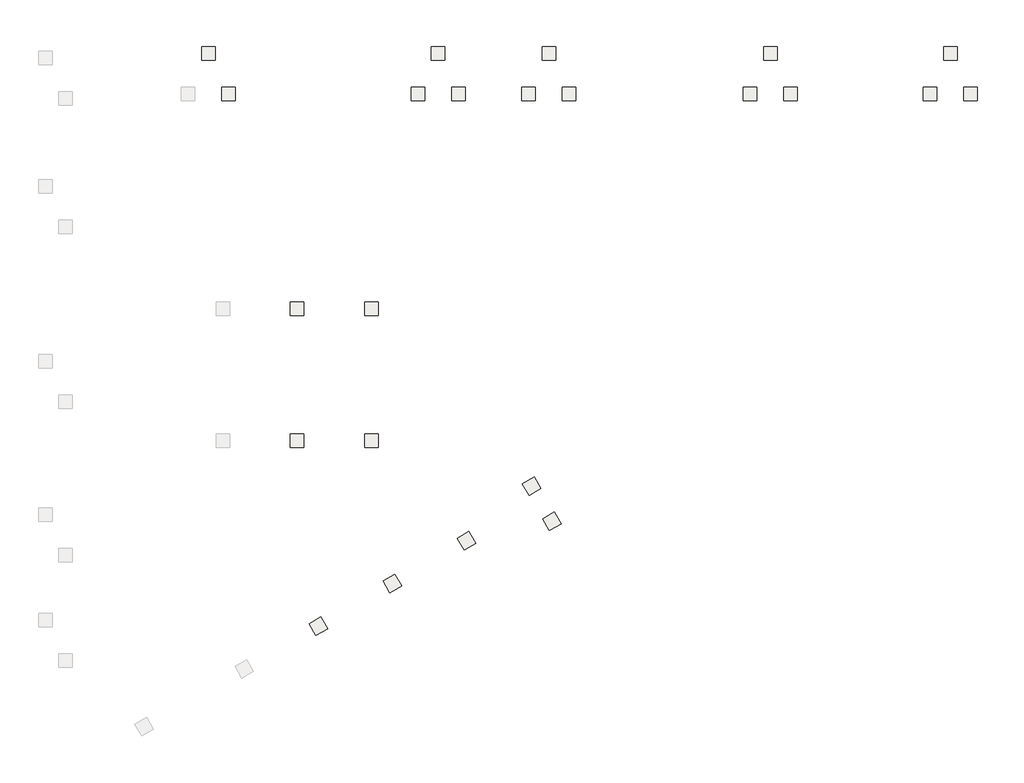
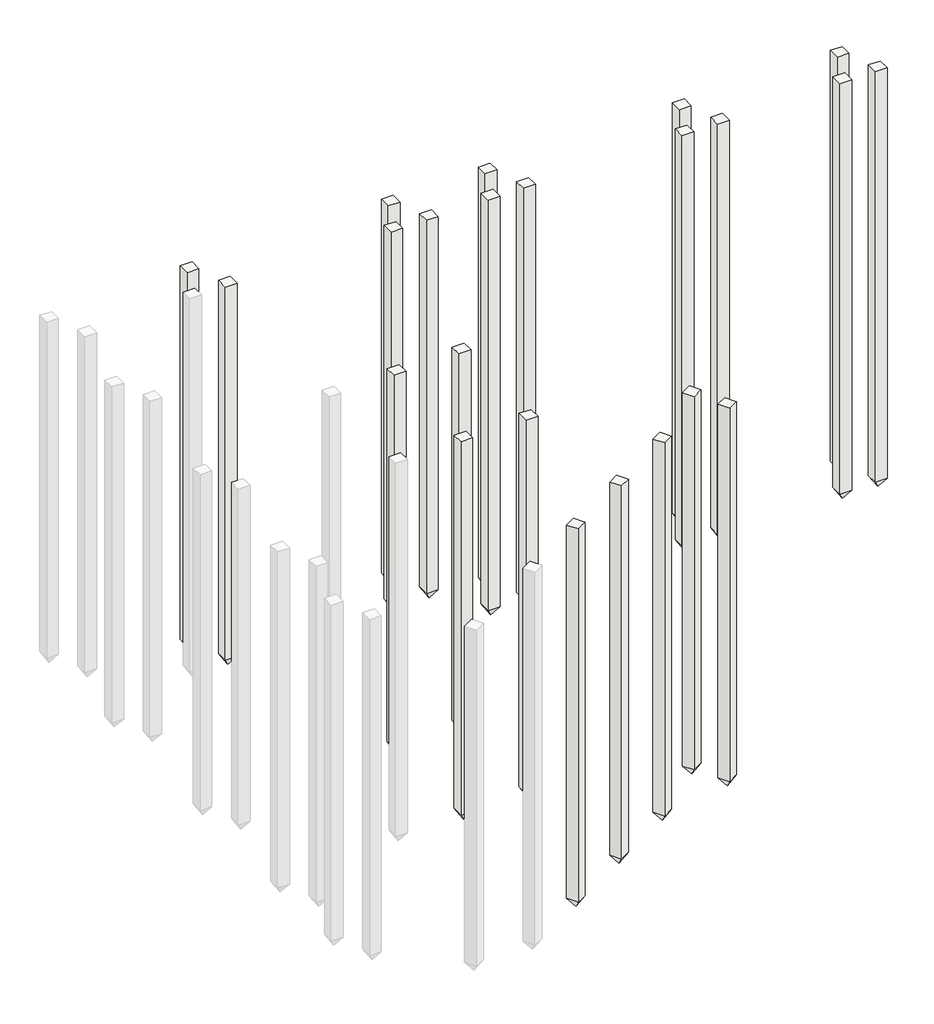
# One storey, part 2 of 2: 23 slabs.
"""IFC4 building model written with IfcOpenShell, lengths in millimetres."""

import ifcopenshell
import ifcopenshell.guid

model = None  # the IFC model being written
_history = None  # IfcOwnerHistory: only IFC2X3 demands one
_inside = {}  # id of a spatial element -> (the spatial element, [elements in it])
_under = {}  # id of a project, library or spatial element -> (it, [spatial elements below it])
_declared = {}  # id of a project -> (the project, [libraries it declares])
_typed = {}  # id of a type object -> (the type object, [elements of that type])
_made_of = {}  # id of a material, layer set ... -> (it, [elements and type objects made of it])


def new_model(schema):
    """Start an empty IFC model of exactly this schema.

    Asked for "IFC4X3", IfcOpenShell would pick the latest addendum, in which some entities
    have other attributes; the version numbers below select the first issue.
    IFC2X3 requires an IfcOwnerHistory on every rooted entity: one is made here for all.
    """
    global model, _history
    if schema == "IFC4X3":
        model = ifcopenshell.file(schema_version=(4, 3, 0, 0))
    else:
        model = ifcopenshell.file(schema=schema)
    _inside.clear()
    _under.clear()
    _declared.clear()
    _typed.clear()
    _made_of.clear()
    _history = None
    if model.schema == "IFC2X3":
        org = make("IfcOrganization", Name="unknown")
        user = make(
            "IfcPersonAndOrganization",
            ThePerson=make("IfcPerson", FamilyName="unknown"),
            TheOrganization=org,
        )
        app = make(
            "IfcApplication",
            ApplicationDeveloper=org,
            Version="unknown",
            ApplicationFullName="unknown",
            ApplicationIdentifier="unknown",
        )
        _history = make(
            "IfcOwnerHistory",
            OwningUser=user,
            OwningApplication=app,
            ChangeAction="ADDED",
            CreationDate=0,
        )
    return model


def make(cls, **values):
    """One entity of the class cls with the attributes given. An attribute that is None is left unset."""
    return model.create_entity(
        cls, **{name: value for name, value in values.items() if value is not None}
    )


def rooted(cls, **values):
    """An entity with a GlobalId (a new one), such as an element, a storey or a relation."""
    return make(cls, GlobalId=ifcopenshell.guid.new(), OwnerHistory=_history, **values)


def si_unit(unit_type, name, prefix=None):
    """IfcSIUnit, for example si_unit("LENGTHUNIT", "METRE", prefix="MILLI")."""
    return make("IfcSIUnit", UnitType=unit_type, Prefix=prefix, Name=name)


def assignment(units):
    """IfcUnitAssignment: the units of a project."""
    return None if units is None else make("IfcUnitAssignment", Units=units)


def point(xyz):
    """IfcCartesianPoint."""
    return None if xyz is None else make("IfcCartesianPoint", Coordinates=xyz)


def direction(xyz):
    """IfcDirection."""
    return None if xyz is None else make("IfcDirection", DirectionRatios=xyz)


def frame(location, z_axis=None, x_axis=None):
    """IfcAxis2Placement3D, a coordinate frame: its origin and axes. An axis left out is left unset."""
    return make(
        "IfcAxis2Placement3D",
        Location=point(location),
        Axis=direction(z_axis),
        RefDirection=direction(x_axis),
    )


def origin():
    """The frame at (0, 0, 0) with its axes left unset."""
    return frame((0.0, 0.0, 0.0))


def place(relative_to, where):
    """IfcLocalPlacement: puts the frame where relative to a parent placement (None: the world)."""
    return make(
        "IfcLocalPlacement", PlacementRelTo=relative_to, RelativePlacement=where
    )


def context(
    kind, dimensions, precision=None, world=None, true_north=None, identifier=None
):
    """IfcGeometricRepresentationContext, for example the 3D "Model" context."""
    return make(
        "IfcGeometricRepresentationContext",
        ContextIdentifier=identifier,
        ContextType=kind,
        CoordinateSpaceDimension=dimensions,
        Precision=precision,
        WorldCoordinateSystem=world,
        TrueNorth=true_north,
    )


def project(units=None, contexts=None):
    """IfcProject with its units and contexts."""
    return rooted(
        "IfcProject",
        Name="project",
        RepresentationContexts=contexts,
        UnitsInContext=assignment(units),
    )


def spatial(cls, under=None, at=None, **own):
    """A site, building, storey or space (cls), placed at a placement, below another one or the project."""
    s = rooted(cls, ObjectPlacement=at, **own)
    if under is not None:
        _under.setdefault(under.id(), (under, []))[1].append(s)
    return s


def faces_of(points, faces, orient=None, outer=None):
    """IfcFace entities. A face is a list of loops; a loop is a list of indices into points, from 0.

    orient and outer hold one flag for each loop. By default every Orientation is true, the
    first loop of a face is its IfcFaceOuterBound and the others are IfcFaceBound.
    """
    made = []
    for i, loops in enumerate(faces):
        bounds = []
        for j, loop in enumerate(loops):
            is_outer = j == 0 if outer is None else outer[i][j]
            bounds.append(
                make(
                    "IfcFaceOuterBound" if is_outer else "IfcFaceBound",
                    Bound=make("IfcPolyLoop", Polygon=[points[k] for k in loop]),
                    Orientation=True if orient is None else orient[i][j],
                )
            )
        made.append(make("IfcFace", Bounds=bounds))
    return made


def faceted_brep(points, faces, orient=None, outer=None, voids=None):
    """IfcFacetedBrep: a solid bounded by flat faces; with voids (closed shells), ...WithVoids."""
    shared = [point(p) for p in points]
    hull = make("IfcClosedShell", CfsFaces=faces_of(shared, faces, orient, outer))
    if voids is None:
        return make("IfcFacetedBrep", Outer=hull)
    return make(
        "IfcFacetedBrepWithVoids",
        Outer=hull,
        Voids=[
            make(cls, CfsFaces=faces_of(shared, fs, o, b)) for cls, fs, o, b in voids
        ],
    )


def shape(context_of_items, identifier, shape_type, items):
    """IfcShapeRepresentation: the items that make up one representation, for example the "Body"."""
    return make(
        "IfcShapeRepresentation",
        ContextOfItems=context_of_items,
        RepresentationIdentifier=identifier,
        RepresentationType=shape_type,
        Items=items,
    )


def made_of(thing, what):
    """Note that an element or type object is made of a material, layer set ...; save() writes the relation."""
    if what is not None:
        _made_of.setdefault(what.id(), (what, []))[1].append(thing)
    return thing


def element(
    cls,
    number,
    at=None,
    inside=None,
    cuts=None,
    type_object=None,
    material=None,
    context=None,
    identifier="Body",
    shape_type=None,
    held_by="IfcProductDefinitionShape",
    body=None,
    shapes=None,
    **own,
):
    """One element of the class cls, such as IfcWall. Its Tag is "e" and its number.

    at: its placement. inside: the storey or other place that contains it. cuts: it is an
    opening in that element (IfcRelVoidsElement). A single representation is given by context,
    identifier, shape_type and body (its items); several are given by shapes. held_by: the class
    of the entity that holds the representations. save() writes the other relations.
    """
    e = rooted(cls, Tag="e%d" % number, ObjectPlacement=at, **own)
    if body is not None:
        shapes = [shape(context, identifier, shape_type, body)]
    if shapes is not None:
        e.Representation = make(held_by, Representations=shapes)
    if inside is not None:
        _inside.setdefault(inside.id(), (inside, []))[1].append(e)
    if cuts is not None:
        rooted(
            "IfcRelVoidsElement", RelatingBuildingElement=cuts, RelatedOpeningElement=e
        )
    if type_object is not None:
        _typed.setdefault(type_object.id(), (type_object, []))[1].append(e)
    return made_of(e, material)


def aggregate(whole, parts):
    """IfcRelAggregates: a whole, such as a stair, and the parts it consists of."""
    return rooted("IfcRelAggregates", RelatingObject=whole, RelatedObjects=parts)


def save(model, path):
    """Write the relations noted so far, then the file.

    IfcRelAggregates (storeys below a building ...), IfcRelContainedInSpatialStructure (elements
    in a storey), IfcRelDefinesByType, IfcRelAssociatesMaterial and IfcRelDeclares: one each for
    every whole, place, type object, material and project.
    """
    for whole, parts in _under.values():
        aggregate(whole, parts)
    for where, things in _inside.values():
        rooted(
            "IfcRelContainedInSpatialStructure",
            RelatedElements=things,
            RelatingStructure=where,
        )
    for kind, things in _typed.values():
        rooted("IfcRelDefinesByType", RelatedObjects=things, RelatingType=kind)
    for what, things in _made_of.values():
        rooted("IfcRelAssociatesMaterial", RelatedObjects=things, RelatingMaterial=what)
    for by, libraries in _declared.values():
        rooted("IfcRelDeclares", RelatingContext=by, RelatedDefinitions=libraries)
    model.write(path)


model = new_model("IFC4")

# Units and contexts
model_context = context("Model", 3, world=origin())
ifc_project = project(units=[si_unit("LENGTHUNIT", "METRE", prefix="MILLI")], contexts=[model_context])

# Site, building, storey
site = spatial("IfcSite", under=ifc_project)
building = spatial("IfcBuilding", under=site)
storey = spatial("IfcBuildingStorey", under=building, Name="+0.650 (Верх свай 4)", Elevation=650.0)

# Slabs
placement = place(None, origin())
element("IfcSlab", 1, ObjectType="Бетонная свая прямоугольного сечения : C100.30-9", at=placement, inside=storey, context=model_context, shape_type="Brep", body=[
    faceted_brep([(1628.1110456, 27176.226036, 650.0), (1368.3034244, 27026.226036, 650.0), (1518.3034244, 26766.4184149, 650.0), (1778.1110456, 26916.4184149, 650.0), (1628.1110456, 27176.226036, 600.0), (1628.1110456, 27176.226036, 500.0), (1628.1110456, 27176.226036, -9350.0), (1368.3034244, 27026.226036, -9350.0), (1368.3034244, 27026.226036, 500.0), (1368.3034244, 27026.226036, 600.0), (1518.3034244, 26766.4184149, -9350.0), (1518.3034244, 26766.4184149, 500.0), (1518.3034244, 26766.4184149, 600.0), (1778.1110456, 26916.4184149, -9350.0), (1778.1110456, 26916.4184149, 500.0), (1778.1110456, 26916.4184149, 600.0), (1573.3830612, 26971.862808, -9600.0), (1573.7830612, 26971.1699877, -9600.0), (1573.0902409, 26970.7699877, -9600.0), (1572.6902409, 26971.462808, -9600.0)], [[[0, 1, 2, 3]], [[1, 0, 4, 5, 6, 7, 8, 9]], [[2, 1, 9, 8, 7, 10, 11, 12]], [[3, 2, 12, 11, 10, 13, 14, 15]], [[0, 3, 15, 14, 13, 6, 5, 4]], [[16, 17, 18, 19]], [[17, 16, 6, 13]], [[18, 17, 13, 10]], [[19, 18, 10, 7]], [[16, 19, 7, 6]]]),
])
element("IfcSlab", 2, ObjectType="Бетонная свая прямоугольного сечения : C100.30-9", at=placement, inside=storey, context=model_context, shape_type="Brep", body=[
    faceted_brep([(3273.4787389, 28126.3655804, 650.0), (3013.6711177, 27976.3655804, 650.0), (3163.6711177, 27716.5579593, 650.0), (3423.4787389, 27866.5579593, 650.0), (3273.4787389, 28126.3655804, 600.0), (3273.4787389, 28126.3655804, 500.0), (3273.4787389, 28126.3655804, -9350.0), (3013.6711177, 27976.3655804, -9350.0), (3013.6711177, 27976.3655804, 500.0), (3013.6711177, 27976.3655804, 600.0), (3163.6711177, 27716.5579593, -9350.0), (3163.6711177, 27716.5579593, 500.0), (3163.6711177, 27716.5579593, 600.0), (3423.4787389, 27866.5579593, -9350.0), (3423.4787389, 27866.5579593, 500.0), (3423.4787389, 27866.5579593, 600.0), (3218.7507545, 27922.0023524, -9600.0), (3219.1507545, 27921.3095321, -9600.0), (3218.4579342, 27920.9095321, -9600.0), (3218.0579342, 27921.6023524, -9600.0)], [[[0, 1, 2, 3]], [[1, 0, 4, 5, 6, 7, 8, 9]], [[2, 1, 9, 8, 7, 10, 11, 12]], [[3, 2, 12, 11, 10, 13, 14, 15]], [[0, 3, 15, 14, 13, 6, 5, 4]], [[16, 17, 18, 19]], [[17, 16, 6, 13]], [[18, 17, 13, 10]], [[19, 18, 10, 7]], [[16, 19, 7, 6]]]),
])
element("IfcSlab", 3, ObjectType="Бетонная свая прямоугольного сечения : C100.30-9", at=placement, inside=storey, context=model_context, shape_type="Brep", body=[
    faceted_brep([(4918.8464322, 29076.5051248, 650.0), (4659.038811, 28926.5051248, 650.0), (4809.038811, 28666.6975037, 650.0), (5068.8464322, 28816.6975037, 650.0), (4918.8464322, 29076.5051248, 600.0), (4918.8464322, 29076.5051248, 500.0), (4918.8464322, 29076.5051248, -9350.0), (4659.038811, 28926.5051248, -9350.0), (4659.038811, 28926.5051248, 500.0), (4659.038811, 28926.5051248, 600.0), (4809.038811, 28666.6975037, -9350.0), (4809.038811, 28666.6975037, 500.0), (4809.038811, 28666.6975037, 600.0), (5068.8464322, 28816.6975037, -9350.0), (5068.8464322, 28816.6975037, 500.0), (5068.8464322, 28816.6975037, 600.0), (4864.1184478, 28872.1418968, -9600.0), (4864.5184478, 28871.4490765, -9600.0), (4863.8256275, 28871.0490765, -9600.0), (4863.4256275, 28871.7418968, -9600.0)], [[[0, 1, 2, 3]], [[1, 0, 4, 5, 6, 7, 8, 9]], [[2, 1, 9, 8, 7, 10, 11, 12]], [[3, 2, 12, 11, 10, 13, 14, 15]], [[0, 3, 15, 14, 13, 6, 5, 4]], [[16, 17, 18, 19]], [[17, 16, 6, 13]], [[18, 17, 13, 10]], [[19, 18, 10, 7]], [[16, 19, 7, 6]]]),
])
element("IfcSlab", 4, ObjectType="Бетонная свая прямоугольного сечения : C100.30-9", at=placement, inside=storey, context=model_context, shape_type="Brep", body=[
    faceted_brep([(6366.0751272, 30288.0861751, 650.0), (6106.2675061, 30138.0861751, 650.0), (6256.2675061, 29878.278554, 650.0), (6516.0751272, 30028.278554, 650.0), (6366.0751272, 30288.0861751, 600.0), (6366.0751272, 30288.0861751, 500.0), (6366.0751272, 30288.0861751, -9350.0), (6106.2675061, 30138.0861751, -9350.0), (6106.2675061, 30138.0861751, 500.0), (6106.2675061, 30138.0861751, 600.0), (6256.2675061, 29878.278554, -9350.0), (6256.2675061, 29878.278554, 500.0), (6256.2675061, 29878.278554, 600.0), (6516.0751272, 30028.278554, -9350.0), (6516.0751272, 30028.278554, 500.0), (6516.0751272, 30028.278554, 600.0), (6311.3471429, 30083.7229471, -9600.0), (6311.7471429, 30083.0301267, -9600.0), (6311.0543226, 30082.6301267, -9600.0), (6310.6543226, 30083.3229471, -9600.0)], [[[0, 1, 2, 3]], [[1, 0, 4, 5, 6, 7, 8, 9]], [[2, 1, 9, 8, 7, 10, 11, 12]], [[3, 2, 12, 11, 10, 13, 14, 15]], [[0, 3, 15, 14, 13, 6, 5, 4]], [[16, 17, 18, 19]], [[17, 16, 6, 13]], [[18, 17, 13, 10]], [[19, 18, 10, 7]], [[16, 19, 7, 6]]]),
])
element("IfcSlab", 5, ObjectType="Бетонная свая прямоугольного сечения : C100.30-9", at=placement, inside=storey, context=model_context, shape_type="Brep", body=[
    faceted_brep([(6816.1412272, 29508.7014783, 650.0), (6556.3336061, 29358.7014783, 650.0), (6706.3336061, 29098.8938571, 650.0), (6966.1412272, 29248.8938571, 650.0), (6816.1412272, 29508.7014783, 600.0), (6816.1412272, 29508.7014783, 500.0), (6816.1412272, 29508.7014783, -9350.0), (6556.3336061, 29358.7014783, -9350.0), (6556.3336061, 29358.7014783, 500.0), (6556.3336061, 29358.7014783, 600.0), (6706.3336061, 29098.8938571, -9350.0), (6706.3336061, 29098.8938571, 500.0), (6706.3336061, 29098.8938571, 600.0), (6966.1412272, 29248.8938571, -9350.0), (6966.1412272, 29248.8938571, 500.0), (6966.1412272, 29248.8938571, 600.0), (6761.4132429, 29304.3382502, -9600.0), (6761.8132429, 29303.6454299, -9600.0), (6761.1204225, 29303.2454299, -9600.0), (6760.7204225, 29303.9382502, -9600.0)], [[[0, 1, 2, 3]], [[1, 0, 4, 5, 6, 7, 8, 9]], [[2, 1, 9, 8, 7, 10, 11, 12]], [[3, 2, 12, 11, 10, 13, 14, 15]], [[0, 3, 15, 14, 13, 6, 5, 4]], [[16, 17, 18, 19]], [[17, 16, 6, 13]], [[18, 17, 13, 10]], [[19, 18, 10, 7]], [[16, 19, 7, 6]]]),
])
element("IfcSlab", 6, ObjectType="Бетонная свая прямоугольного сечения : C100.30-9", at=placement, inside=storey, context=model_context, shape_type="Brep", body=[
    faceted_brep([(-716.9506055, 39854.4786856, 650.0), (-1016.9506055, 39854.4786856, 650.0), (-1016.9506055, 39554.4786856, 650.0), (-716.9506055, 39554.4786856, 650.0), (-716.9506055, 39854.4786856, 600.0), (-716.9506055, 39854.4786856, 500.0), (-716.9506055, 39854.4786856, -9350.0), (-1016.9506055, 39854.4786856, -9350.0), (-1016.9506055, 39854.4786856, 500.0), (-1016.9506055, 39854.4786856, 600.0), (-1016.9506055, 39554.4786856, -9350.0), (-1016.9506055, 39554.4786856, 500.0), (-1016.9506055, 39554.4786856, 600.0), (-716.9506055, 39554.4786856, -9350.0), (-716.9506055, 39554.4786856, 500.0), (-716.9506055, 39554.4786856, 600.0), (-866.5280443, 39704.8589307, -9600.0), (-866.5280443, 39704.0589307, -9600.0), (-867.3280443, 39704.0589307, -9600.0), (-867.3280443, 39704.8589307, -9600.0)], [[[0, 1, 2, 3]], [[1, 0, 4, 5, 6, 7, 8, 9]], [[2, 1, 9, 8, 7, 10, 11, 12]], [[3, 2, 12, 11, 10, 13, 14, 15]], [[0, 3, 15, 14, 13, 6, 5, 4]], [[16, 17, 18, 19]], [[17, 16, 6, 13]], [[18, 17, 13, 10]], [[19, 18, 10, 7]], [[16, 19, 7, 6]]]),
])
element("IfcSlab", 7, ObjectType="Бетонная свая прямоугольного сечения : C100.30-9", at=placement, inside=storey, context=model_context, shape_type="Brep", body=[
    faceted_brep([(-266.9506048, 38954.4786849, 650.0), (-566.9506048, 38954.4786849, 650.0), (-566.9506048, 38654.4786849, 650.0), (-266.9506048, 38654.4786849, 650.0), (-266.9506048, 38954.4786849, 600.0), (-266.9506048, 38954.4786849, 500.0), (-266.9506048, 38954.4786849, -9350.0), (-566.9506048, 38954.4786849, -9350.0), (-566.9506048, 38954.4786849, 500.0), (-566.9506048, 38954.4786849, 600.0), (-566.9506048, 38654.4786849, -9350.0), (-566.9506048, 38654.4786849, 500.0), (-566.9506048, 38654.4786849, 600.0), (-266.9506048, 38654.4786849, -9350.0), (-266.9506048, 38654.4786849, 500.0), (-266.9506048, 38654.4786849, 600.0), (-416.5280436, 38804.85893, -9600.0), (-416.5280436, 38804.05893, -9600.0), (-417.3280436, 38804.05893, -9600.0), (-417.3280436, 38804.85893, -9600.0)], [[[0, 1, 2, 3]], [[1, 0, 4, 5, 6, 7, 8, 9]], [[2, 1, 9, 8, 7, 10, 11, 12]], [[3, 2, 12, 11, 10, 13, 14, 15]], [[0, 3, 15, 14, 13, 6, 5, 4]], [[16, 17, 18, 19]], [[17, 16, 6, 13]], [[18, 17, 13, 10]], [[19, 18, 10, 7]], [[16, 19, 7, 6]]]),
])
element("IfcSlab", 8, ObjectType="Бетонная свая прямоугольного сечения : C100.30-9", at=placement, inside=storey, context=model_context, shape_type="Brep", body=[
    faceted_brep([(2903.4238231, 31244.4786844, 650.0), (2603.4238231, 31244.4786844, 650.0), (2603.4238231, 30944.4786844, 650.0), (2903.4238231, 30944.4786844, 650.0), (2903.4238231, 31244.4786844, 600.0), (2903.4238231, 31244.4786844, 500.0), (2903.4238231, 31244.4786844, -9350.0), (2603.4238231, 31244.4786844, -9350.0), (2603.4238231, 31244.4786844, 500.0), (2603.4238231, 31244.4786844, 600.0), (2603.4238231, 30944.4786844, -9350.0), (2603.4238231, 30944.4786844, 500.0), (2603.4238231, 30944.4786844, 600.0), (2903.4238231, 30944.4786844, -9350.0), (2903.4238231, 30944.4786844, 500.0), (2903.4238231, 30944.4786844, 600.0), (2753.8463843, 31094.8589295, -9600.0), (2753.8463843, 31094.0589295, -9600.0), (2753.0463843, 31094.0589295, -9600.0), (2753.0463843, 31094.8589295, -9600.0)], [[[0, 1, 2, 3]], [[1, 0, 4, 5, 6, 7, 8, 9]], [[2, 1, 9, 8, 7, 10, 11, 12]], [[3, 2, 12, 11, 10, 13, 14, 15]], [[0, 3, 15, 14, 13, 6, 5, 4]], [[16, 17, 18, 19]], [[17, 16, 6, 13]], [[18, 17, 13, 10]], [[19, 18, 10, 7]], [[16, 19, 7, 6]]]),
])
element("IfcSlab", 9, ObjectType="Бетонная свая прямоугольного сечения : C100.30-9", at=placement, inside=storey, context=model_context, shape_type="Brep", body=[
    faceted_brep([(3933.0494083, 38954.4786856, 650.0), (3633.0494083, 38954.4786856, 650.0), (3633.0494083, 38654.4786856, 650.0), (3933.0494083, 38654.4786856, 650.0), (3933.0494083, 38954.4786856, 600.0), (3933.0494083, 38954.4786856, 500.0), (3933.0494083, 38954.4786856, -9350.0), (3633.0494083, 38954.4786856, -9350.0), (3633.0494083, 38954.4786856, 500.0), (3633.0494083, 38954.4786856, 600.0), (3633.0494083, 38654.4786856, -9350.0), (3633.0494083, 38654.4786856, 500.0), (3633.0494083, 38654.4786856, 600.0), (3933.0494083, 38654.4786856, -9350.0), (3933.0494083, 38654.4786856, 500.0), (3933.0494083, 38654.4786856, 600.0), (3783.4719696, 38804.8589307, -9600.0), (3783.4719696, 38804.0589307, -9600.0), (3782.6719696, 38804.0589307, -9600.0), (3782.6719696, 38804.8589307, -9600.0)], [[[0, 1, 2, 3]], [[1, 0, 4, 5, 6, 7, 8, 9]], [[2, 1, 9, 8, 7, 10, 11, 12]], [[3, 2, 12, 11, 10, 13, 14, 15]], [[0, 3, 15, 14, 13, 6, 5, 4]], [[16, 17, 18, 19]], [[17, 16, 6, 13]], [[18, 17, 13, 10]], [[19, 18, 10, 7]], [[16, 19, 7, 6]]]),
])
element("IfcSlab", 10, ObjectType="Бетонная свая прямоугольного сечения : C100.30-9", at=placement, inside=storey, context=model_context, shape_type="Brep", body=[
    faceted_brep([(4383.0494083, 39854.4786856, 650.0), (4083.0494083, 39854.4786856, 650.0), (4083.0494083, 39554.4786856, 650.0), (4383.0494083, 39554.4786856, 650.0), (4383.0494083, 39854.4786856, 600.0), (4383.0494083, 39854.4786856, 500.0), (4383.0494083, 39854.4786856, -9350.0), (4083.0494083, 39854.4786856, -9350.0), (4083.0494083, 39854.4786856, 500.0), (4083.0494083, 39854.4786856, 600.0), (4083.0494083, 39554.4786856, -9350.0), (4083.0494083, 39554.4786856, 500.0), (4083.0494083, 39554.4786856, 600.0), (4383.0494083, 39554.4786856, -9350.0), (4383.0494083, 39554.4786856, 500.0), (4383.0494083, 39554.4786856, 600.0), (4233.4719696, 39704.8589307, -9600.0), (4233.4719696, 39704.0589307, -9600.0), (4232.6719696, 39704.0589307, -9600.0), (4232.6719696, 39704.8589307, -9600.0)], [[[0, 1, 2, 3]], [[1, 0, 4, 5, 6, 7, 8, 9]], [[2, 1, 9, 8, 7, 10, 11, 12]], [[3, 2, 12, 11, 10, 13, 14, 15]], [[0, 3, 15, 14, 13, 6, 5, 4]], [[16, 17, 18, 19]], [[17, 16, 6, 13]], [[18, 17, 13, 10]], [[19, 18, 10, 7]], [[16, 19, 7, 6]]]),
])
element("IfcSlab", 11, ObjectType="Бетонная свая прямоугольного сечения : C100.30-9", at=placement, inside=storey, context=model_context, shape_type="Brep", body=[
    faceted_brep([(4833.049409, 38954.4786849, 650.0), (4533.049409, 38954.4786849, 650.0), (4533.049409, 38654.4786849, 650.0), (4833.049409, 38654.4786849, 650.0), (4833.049409, 38954.4786849, 600.0), (4833.049409, 38954.4786849, 500.0), (4833.049409, 38954.4786849, -9350.0), (4533.049409, 38954.4786849, -9350.0), (4533.049409, 38954.4786849, 500.0), (4533.049409, 38954.4786849, 600.0), (4533.049409, 38654.4786849, -9350.0), (4533.049409, 38654.4786849, 500.0), (4533.049409, 38654.4786849, 600.0), (4833.049409, 38654.4786849, -9350.0), (4833.049409, 38654.4786849, 500.0), (4833.049409, 38654.4786849, 600.0), (4683.4719703, 38804.85893, -9600.0), (4683.4719703, 38804.05893, -9600.0), (4682.6719703, 38804.05893, -9600.0), (4682.6719703, 38804.85893, -9600.0)], [[[0, 1, 2, 3]], [[1, 0, 4, 5, 6, 7, 8, 9]], [[2, 1, 9, 8, 7, 10, 11, 12]], [[3, 2, 12, 11, 10, 13, 14, 15]], [[0, 3, 15, 14, 13, 6, 5, 4]], [[16, 17, 18, 19]], [[17, 16, 6, 13]], [[18, 17, 13, 10]], [[19, 18, 10, 7]], [[16, 19, 7, 6]]]),
])
element("IfcSlab", 12, ObjectType="Бетонная свая прямоугольного сечения : C100.30-9", at=placement, inside=storey, context=model_context, shape_type="Brep", body=[
    faceted_brep([(1253.4238231, 31244.4786844, 650.0), (953.4238231, 31244.4786844, 650.0), (953.4238231, 30944.4786844, 650.0), (1253.4238231, 30944.4786844, 650.0), (1253.4238231, 31244.4786844, 600.0), (1253.4238231, 31244.4786844, 500.0), (1253.4238231, 31244.4786844, -9350.0), (953.4238231, 31244.4786844, -9350.0), (953.4238231, 31244.4786844, 500.0), (953.4238231, 31244.4786844, 600.0), (953.4238231, 30944.4786844, -9350.0), (953.4238231, 30944.4786844, 500.0), (953.4238231, 30944.4786844, 600.0), (1253.4238231, 30944.4786844, -9350.0), (1253.4238231, 30944.4786844, 500.0), (1253.4238231, 30944.4786844, 600.0), (1103.8463843, 31094.8589295, -9600.0), (1103.8463843, 31094.0589295, -9600.0), (1103.0463843, 31094.0589295, -9600.0), (1103.0463843, 31094.8589295, -9600.0)], [[[0, 1, 2, 3]], [[1, 0, 4, 5, 6, 7, 8, 9]], [[2, 1, 9, 8, 7, 10, 11, 12]], [[3, 2, 12, 11, 10, 13, 14, 15]], [[0, 3, 15, 14, 13, 6, 5, 4]], [[16, 17, 18, 19]], [[17, 16, 6, 13]], [[18, 17, 13, 10]], [[19, 18, 10, 7]], [[16, 19, 7, 6]]]),
])
element("IfcSlab", 13, ObjectType="Бетонная свая прямоугольного сечения : C100.30-9", at=placement, inside=storey, context=model_context, shape_type="Brep", body=[
    faceted_brep([(2903.4238231, 34179.4786844, 650.0), (2603.4238231, 34179.4786844, 650.0), (2603.4238231, 33879.4786844, 650.0), (2903.4238231, 33879.4786844, 650.0), (2903.4238231, 34179.4786844, 600.0), (2903.4238231, 34179.4786844, 500.0), (2903.4238231, 34179.4786844, -9350.0), (2603.4238231, 34179.4786844, -9350.0), (2603.4238231, 34179.4786844, 500.0), (2603.4238231, 34179.4786844, 600.0), (2603.4238231, 33879.4786844, -9350.0), (2603.4238231, 33879.4786844, 500.0), (2603.4238231, 33879.4786844, 600.0), (2903.4238231, 33879.4786844, -9350.0), (2903.4238231, 33879.4786844, 500.0), (2903.4238231, 33879.4786844, 600.0), (2753.8463843, 34029.8589295, -9600.0), (2753.8463843, 34029.0589295, -9600.0), (2753.0463843, 34029.0589295, -9600.0), (2753.0463843, 34029.8589295, -9600.0)], [[[0, 1, 2, 3]], [[1, 0, 4, 5, 6, 7, 8, 9]], [[2, 1, 9, 8, 7, 10, 11, 12]], [[3, 2, 12, 11, 10, 13, 14, 15]], [[0, 3, 15, 14, 13, 6, 5, 4]], [[16, 17, 18, 19]], [[17, 16, 6, 13]], [[18, 17, 13, 10]], [[19, 18, 10, 7]], [[16, 19, 7, 6]]]),
])
element("IfcSlab", 14, ObjectType="Бетонная свая прямоугольного сечения : C100.30-9", at=placement, inside=storey, context=model_context, shape_type="Brep", body=[
    faceted_brep([(1253.4238231, 34179.4786844, 650.0), (953.4238231, 34179.4786844, 650.0), (953.4238231, 33879.4786844, 650.0), (1253.4238231, 33879.4786844, 650.0), (1253.4238231, 34179.4786844, 600.0), (1253.4238231, 34179.4786844, 500.0), (1253.4238231, 34179.4786844, -9350.0), (953.4238231, 34179.4786844, -9350.0), (953.4238231, 34179.4786844, 500.0), (953.4238231, 34179.4786844, 600.0), (953.4238231, 33879.4786844, -9350.0), (953.4238231, 33879.4786844, 500.0), (953.4238231, 33879.4786844, 600.0), (1253.4238231, 33879.4786844, -9350.0), (1253.4238231, 33879.4786844, 500.0), (1253.4238231, 33879.4786844, 600.0), (1103.8463843, 34029.8589295, -9600.0), (1103.8463843, 34029.0589295, -9600.0), (1103.0463843, 34029.0589295, -9600.0), (1103.0463843, 34029.8589295, -9600.0)], [[[0, 1, 2, 3]], [[1, 0, 4, 5, 6, 7, 8, 9]], [[2, 1, 9, 8, 7, 10, 11, 12]], [[3, 2, 12, 11, 10, 13, 14, 15]], [[0, 3, 15, 14, 13, 6, 5, 4]], [[16, 17, 18, 19]], [[17, 16, 6, 13]], [[18, 17, 13, 10]], [[19, 18, 10, 7]], [[16, 19, 7, 6]]]),
])
element("IfcSlab", 15, ObjectType="Бетонная свая прямоугольного сечения : C110.30-9", at=placement, inside=storey, context=model_context, shape_type="Brep", body=[
    faceted_brep([(11313.2052981, 38954.4786617, 650.0), (11013.2052981, 38954.4786617, 650.0), (11013.2052981, 38654.4786617, 650.0), (11313.2052981, 38654.4786617, 650.0), (11313.2052981, 38954.4786617, 600.0), (11313.2052981, 38954.4786617, 500.0), (11313.2052981, 38954.4786617, -10350.0), (11013.2052981, 38954.4786617, -10350.0), (11013.2052981, 38954.4786617, 500.0), (11013.2052981, 38954.4786617, 600.0), (11013.2052981, 38654.4786617, -10350.0), (11013.2052981, 38654.4786617, 500.0), (11013.2052981, 38654.4786617, 600.0), (11313.2052981, 38654.4786617, -10350.0), (11313.2052981, 38654.4786617, 500.0), (11313.2052981, 38654.4786617, 600.0), (11163.6278594, 38804.8589068, -10600.0), (11163.6278594, 38804.0589068, -10600.0), (11162.8278594, 38804.0589068, -10600.0), (11162.8278594, 38804.8589068, -10600.0)], [[[0, 1, 2, 3]], [[1, 0, 4, 5, 6, 7, 8, 9]], [[2, 1, 9, 8, 7, 10, 11, 12]], [[3, 2, 12, 11, 10, 13, 14, 15]], [[0, 3, 15, 14, 13, 6, 5, 4]], [[16, 17, 18, 19]], [[17, 16, 6, 13]], [[18, 17, 13, 10]], [[19, 18, 10, 7]], [[16, 19, 7, 6]]]),
])
element("IfcSlab", 16, ObjectType="Бетонная свая прямоугольного сечения : C110.30-9", at=placement, inside=storey, context=model_context, shape_type="Brep", body=[
    faceted_brep([(11763.2052981, 39854.4786617, 650.0), (11463.2052981, 39854.4786617, 650.0), (11463.2052981, 39554.4786617, 650.0), (11763.2052981, 39554.4786617, 650.0), (11763.2052981, 39854.4786617, 600.0), (11763.2052981, 39854.4786617, 500.0), (11763.2052981, 39854.4786617, -10350.0), (11463.2052981, 39854.4786617, -10350.0), (11463.2052981, 39854.4786617, 500.0), (11463.2052981, 39854.4786617, 600.0), (11463.2052981, 39554.4786617, -10350.0), (11463.2052981, 39554.4786617, 500.0), (11463.2052981, 39554.4786617, 600.0), (11763.2052981, 39554.4786617, -10350.0), (11763.2052981, 39554.4786617, 500.0), (11763.2052981, 39554.4786617, 600.0), (11613.6278594, 39704.8589068, -10600.0), (11613.6278594, 39704.0589068, -10600.0), (11612.8278594, 39704.0589068, -10600.0), (11612.8278594, 39704.8589068, -10600.0)], [[[0, 1, 2, 3]], [[1, 0, 4, 5, 6, 7, 8, 9]], [[2, 1, 9, 8, 7, 10, 11, 12]], [[3, 2, 12, 11, 10, 13, 14, 15]], [[0, 3, 15, 14, 13, 6, 5, 4]], [[16, 17, 18, 19]], [[17, 16, 6, 13]], [[18, 17, 13, 10]], [[19, 18, 10, 7]], [[16, 19, 7, 6]]]),
])
element("IfcSlab", 17, ObjectType="Бетонная свая прямоугольного сечения : C110.30-9", at=placement, inside=storey, context=model_context, shape_type="Brep", body=[
    faceted_brep([(12213.2052988, 38954.478661, 650.0), (11913.2052988, 38954.478661, 650.0), (11913.2052988, 38654.478661, 650.0), (12213.2052988, 38654.478661, 650.0), (12213.2052988, 38954.478661, 600.0), (12213.2052988, 38954.478661, 500.0), (12213.2052988, 38954.478661, -10350.0), (11913.2052988, 38954.478661, -10350.0), (11913.2052988, 38954.478661, 500.0), (11913.2052988, 38954.478661, 600.0), (11913.2052988, 38654.478661, -10350.0), (11913.2052988, 38654.478661, 500.0), (11913.2052988, 38654.478661, 600.0), (12213.2052988, 38654.478661, -10350.0), (12213.2052988, 38654.478661, 500.0), (12213.2052988, 38654.478661, 600.0), (12063.62786, 38804.8589061, -10600.0), (12063.62786, 38804.0589061, -10600.0), (12062.82786, 38804.0589061, -10600.0), (12062.82786, 38804.8589061, -10600.0)], [[[0, 1, 2, 3]], [[1, 0, 4, 5, 6, 7, 8, 9]], [[2, 1, 9, 8, 7, 10, 11, 12]], [[3, 2, 12, 11, 10, 13, 14, 15]], [[0, 3, 15, 14, 13, 6, 5, 4]], [[16, 17, 18, 19]], [[17, 16, 6, 13]], [[18, 17, 13, 10]], [[19, 18, 10, 7]], [[16, 19, 7, 6]]]),
])
element("IfcSlab", 18, ObjectType="Бетонная свая прямоугольного сечения : C110.30-9", at=placement, inside=storey, context=model_context, shape_type="Brep", body=[
    faceted_brep([(15313.2052981, 38954.4786617, 650.0), (15013.2052981, 38954.4786617, 650.0), (15013.2052981, 38654.4786617, 650.0), (15313.2052981, 38654.4786617, 650.0), (15313.2052981, 38954.4786617, 600.0), (15313.2052981, 38954.4786617, 500.0), (15313.2052981, 38954.4786617, -10350.0), (15013.2052981, 38954.4786617, -10350.0), (15013.2052981, 38954.4786617, 500.0), (15013.2052981, 38954.4786617, 600.0), (15013.2052981, 38654.4786617, -10350.0), (15013.2052981, 38654.4786617, 500.0), (15013.2052981, 38654.4786617, 600.0), (15313.2052981, 38654.4786617, -10350.0), (15313.2052981, 38654.4786617, 500.0), (15313.2052981, 38654.4786617, 600.0), (15163.6278594, 38804.8589068, -10600.0), (15163.6278594, 38804.0589068, -10600.0), (15162.8278594, 38804.0589068, -10600.0), (15162.8278594, 38804.8589068, -10600.0)], [[[0, 1, 2, 3]], [[1, 0, 4, 5, 6, 7, 8, 9]], [[2, 1, 9, 8, 7, 10, 11, 12]], [[3, 2, 12, 11, 10, 13, 14, 15]], [[0, 3, 15, 14, 13, 6, 5, 4]], [[16, 17, 18, 19]], [[17, 16, 6, 13]], [[18, 17, 13, 10]], [[19, 18, 10, 7]], [[16, 19, 7, 6]]]),
])
element("IfcSlab", 19, ObjectType="Бетонная свая прямоугольного сечения : C110.30-9", at=placement, inside=storey, context=model_context, shape_type="Brep", body=[
    faceted_brep([(15763.2052981, 39854.4786617, 650.0), (15463.2052981, 39854.4786617, 650.0), (15463.2052981, 39554.4786617, 650.0), (15763.2052981, 39554.4786617, 650.0), (15763.2052981, 39854.4786617, 600.0), (15763.2052981, 39854.4786617, 500.0), (15763.2052981, 39854.4786617, -10350.0), (15463.2052981, 39854.4786617, -10350.0), (15463.2052981, 39854.4786617, 500.0), (15463.2052981, 39854.4786617, 600.0), (15463.2052981, 39554.4786617, -10350.0), (15463.2052981, 39554.4786617, 500.0), (15463.2052981, 39554.4786617, 600.0), (15763.2052981, 39554.4786617, -10350.0), (15763.2052981, 39554.4786617, 500.0), (15763.2052981, 39554.4786617, 600.0), (15613.6278594, 39704.8589068, -10600.0), (15613.6278594, 39704.0589068, -10600.0), (15612.8278594, 39704.0589068, -10600.0), (15612.8278594, 39704.8589068, -10600.0)], [[[0, 1, 2, 3]], [[1, 0, 4, 5, 6, 7, 8, 9]], [[2, 1, 9, 8, 7, 10, 11, 12]], [[3, 2, 12, 11, 10, 13, 14, 15]], [[0, 3, 15, 14, 13, 6, 5, 4]], [[16, 17, 18, 19]], [[17, 16, 6, 13]], [[18, 17, 13, 10]], [[19, 18, 10, 7]], [[16, 19, 7, 6]]]),
])
element("IfcSlab", 20, ObjectType="Бетонная свая прямоугольного сечения : C110.30-9", at=placement, inside=storey, context=model_context, shape_type="Brep", body=[
    faceted_brep([(16213.2052988, 38954.478661, 650.0), (15913.2052988, 38954.478661, 650.0), (15913.2052988, 38654.478661, 650.0), (16213.2052988, 38654.478661, 650.0), (16213.2052988, 38954.478661, 600.0), (16213.2052988, 38954.478661, 500.0), (16213.2052988, 38954.478661, -10350.0), (15913.2052988, 38954.478661, -10350.0), (15913.2052988, 38954.478661, 500.0), (15913.2052988, 38954.478661, 600.0), (15913.2052988, 38654.478661, -10350.0), (15913.2052988, 38654.478661, 500.0), (15913.2052988, 38654.478661, 600.0), (16213.2052988, 38654.478661, -10350.0), (16213.2052988, 38654.478661, 500.0), (16213.2052988, 38654.478661, 600.0), (16063.62786, 38804.8589061, -10600.0), (16063.62786, 38804.0589061, -10600.0), (16062.82786, 38804.0589061, -10600.0), (16062.82786, 38804.8589061, -10600.0)], [[[0, 1, 2, 3]], [[1, 0, 4, 5, 6, 7, 8, 9]], [[2, 1, 9, 8, 7, 10, 11, 12]], [[3, 2, 12, 11, 10, 13, 14, 15]], [[0, 3, 15, 14, 13, 6, 5, 4]], [[16, 17, 18, 19]], [[17, 16, 6, 13]], [[18, 17, 13, 10]], [[19, 18, 10, 7]], [[16, 19, 7, 6]]]),
])
element("IfcSlab", 21, ObjectType="Бетонная свая прямоугольного сечения : C110.30-9", at=placement, inside=storey, context=model_context, shape_type="Brep", body=[
    faceted_brep([(6393.2494055, 38954.4786617, 650.0), (6093.2494055, 38954.4786617, 650.0), (6093.2494055, 38654.4786617, 650.0), (6393.2494055, 38654.4786617, 650.0), (6393.2494055, 38954.4786617, 600.0), (6393.2494055, 38954.4786617, 500.0), (6393.2494055, 38954.4786617, -10350.0), (6093.2494055, 38954.4786617, -10350.0), (6093.2494055, 38954.4786617, 500.0), (6093.2494055, 38954.4786617, 600.0), (6093.2494055, 38654.4786617, -10350.0), (6093.2494055, 38654.4786617, 500.0), (6093.2494055, 38654.4786617, 600.0), (6393.2494055, 38654.4786617, -10350.0), (6393.2494055, 38654.4786617, 500.0), (6393.2494055, 38654.4786617, 600.0), (6243.6719667, 38804.8589068, -10600.0), (6243.6719667, 38804.0589068, -10600.0), (6242.8719667, 38804.0589068, -10600.0), (6242.8719667, 38804.8589068, -10600.0)], [[[0, 1, 2, 3]], [[1, 0, 4, 5, 6, 7, 8, 9]], [[2, 1, 9, 8, 7, 10, 11, 12]], [[3, 2, 12, 11, 10, 13, 14, 15]], [[0, 3, 15, 14, 13, 6, 5, 4]], [[16, 17, 18, 19]], [[17, 16, 6, 13]], [[18, 17, 13, 10]], [[19, 18, 10, 7]], [[16, 19, 7, 6]]]),
])
element("IfcSlab", 22, ObjectType="Бетонная свая прямоугольного сечения : C110.30-9", at=placement, inside=storey, context=model_context, shape_type="Brep", body=[
    faceted_brep([(6843.2494055, 39854.4786617, 650.0), (6543.2494055, 39854.4786617, 650.0), (6543.2494055, 39554.4786617, 650.0), (6843.2494055, 39554.4786617, 650.0), (6843.2494055, 39854.4786617, 600.0), (6843.2494055, 39854.4786617, 500.0), (6843.2494055, 39854.4786617, -10350.0), (6543.2494055, 39854.4786617, -10350.0), (6543.2494055, 39854.4786617, 500.0), (6543.2494055, 39854.4786617, 600.0), (6543.2494055, 39554.4786617, -10350.0), (6543.2494055, 39554.4786617, 500.0), (6543.2494055, 39554.4786617, 600.0), (6843.2494055, 39554.4786617, -10350.0), (6843.2494055, 39554.4786617, 500.0), (6843.2494055, 39554.4786617, 600.0), (6693.6719667, 39704.8589068, -10600.0), (6693.6719667, 39704.0589068, -10600.0), (6692.8719667, 39704.0589068, -10600.0), (6692.8719667, 39704.8589068, -10600.0)], [[[0, 1, 2, 3]], [[1, 0, 4, 5, 6, 7, 8, 9]], [[2, 1, 9, 8, 7, 10, 11, 12]], [[3, 2, 12, 11, 10, 13, 14, 15]], [[0, 3, 15, 14, 13, 6, 5, 4]], [[16, 17, 18, 19]], [[17, 16, 6, 13]], [[18, 17, 13, 10]], [[19, 18, 10, 7]], [[16, 19, 7, 6]]]),
])
element("IfcSlab", 23, ObjectType="Бетонная свая прямоугольного сечения : C110.30-9", at=placement, inside=storey, context=model_context, shape_type="Brep", body=[
    faceted_brep([(7293.2494062, 38954.478661, 650.0), (6993.2494062, 38954.478661, 650.0), (6993.2494062, 38654.478661, 650.0), (7293.2494062, 38654.478661, 650.0), (7293.2494062, 38954.478661, 600.0), (7293.2494062, 38954.478661, 500.0), (7293.2494062, 38954.478661, -10350.0), (6993.2494062, 38954.478661, -10350.0), (6993.2494062, 38954.478661, 500.0), (6993.2494062, 38954.478661, 600.0), (6993.2494062, 38654.478661, -10350.0), (6993.2494062, 38654.478661, 500.0), (6993.2494062, 38654.478661, 600.0), (7293.2494062, 38654.478661, -10350.0), (7293.2494062, 38654.478661, 500.0), (7293.2494062, 38654.478661, 600.0), (7143.6719674, 38804.8589061, -10600.0), (7143.6719674, 38804.0589061, -10600.0), (7142.8719674, 38804.0589061, -10600.0), (7142.8719674, 38804.8589061, -10600.0)], [[[0, 1, 2, 3]], [[1, 0, 4, 5, 6, 7, 8, 9]], [[2, 1, 9, 8, 7, 10, 11, 12]], [[3, 2, 12, 11, 10, 13, 14, 15]], [[0, 3, 15, 14, 13, 6, 5, 4]], [[16, 17, 18, 19]], [[17, 16, 6, 13]], [[18, 17, 13, 10]], [[19, 18, 10, 7]], [[16, 19, 7, 6]]]),
])

save(model, "model.ifc")
